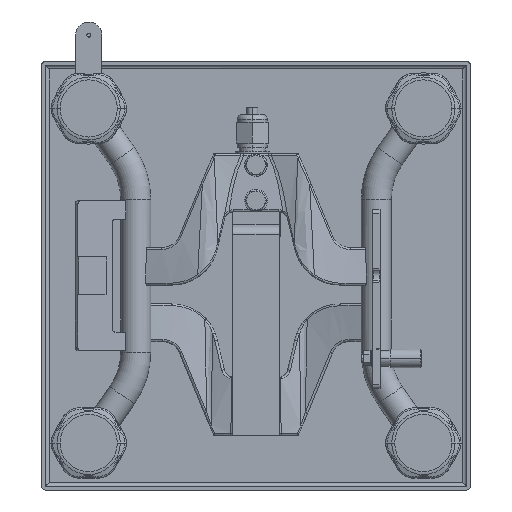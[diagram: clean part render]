
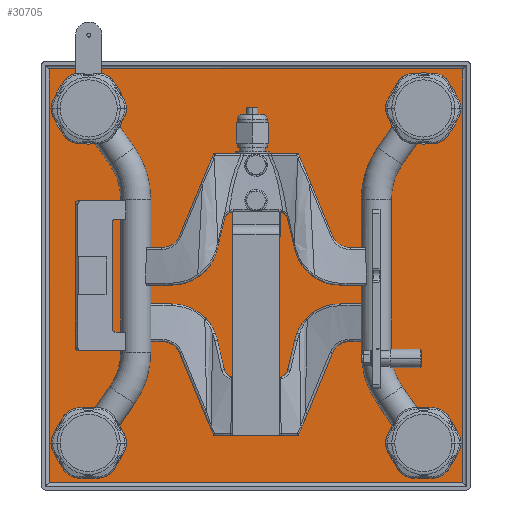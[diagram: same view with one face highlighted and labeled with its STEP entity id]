
A CAD part, front view. The second image highlights one B-rep face of the part: STEP entity #30705.
In plain terms, the highlighted planar face has unit normal (0, -1, 0).
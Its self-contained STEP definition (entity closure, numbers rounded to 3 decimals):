
#5156=CARTESIAN_POINT('',(-89.,68.5,-89.));
#5157=DIRECTION('',(0.,1.,0.));
#5158=DIRECTION('',(-1.,0.,0.));
#5159=AXIS2_PLACEMENT_3D('',#5156,#5157,#5158);
#5161=CARTESIAN_POINT('',(-89.,68.5,-89.));
#5162=DIRECTION('',(0.,1.,0.));
#5163=DIRECTION('',(1.,0.,0.));
#5164=AXIS2_PLACEMENT_3D('',#5161,#5162,#5163);
#5166=CARTESIAN_POINT('',(89.,68.5,-89.));
#5167=DIRECTION('',(0.,1.,0.));
#5168=DIRECTION('',(-1.,0.,0.));
#5169=AXIS2_PLACEMENT_3D('',#5166,#5167,#5168);
#5171=CARTESIAN_POINT('',(89.,68.5,-89.));
#5172=DIRECTION('',(0.,1.,0.));
#5173=DIRECTION('',(1.,0.,0.));
#5174=AXIS2_PLACEMENT_3D('',#5171,#5172,#5173);
#5176=CARTESIAN_POINT('',(-89.,68.5,89.));
#5177=DIRECTION('',(0.,1.,0.));
#5178=DIRECTION('',(-1.,0.,0.));
#5179=AXIS2_PLACEMENT_3D('',#5176,#5177,#5178);
#5181=CARTESIAN_POINT('',(-89.,68.5,89.));
#5182=DIRECTION('',(0.,1.,0.));
#5183=DIRECTION('',(1.,0.,0.));
#5184=AXIS2_PLACEMENT_3D('',#5181,#5182,#5183);
#5186=CARTESIAN_POINT('',(89.,68.5,89.));
#5187=DIRECTION('',(0.,1.,0.));
#5188=DIRECTION('',(-1.,0.,0.));
#5189=AXIS2_PLACEMENT_3D('',#5186,#5187,#5188);
#5191=CARTESIAN_POINT('',(89.,68.5,89.));
#5192=DIRECTION('',(0.,1.,0.));
#5193=DIRECTION('',(1.,0.,0.));
#5194=AXIS2_PLACEMENT_3D('',#5191,#5192,#5193);
#5209=DIRECTION('',(0.,0.,1.));
#5210=VECTOR('',#5209,220.);
#5211=CARTESIAN_POINT('',(-110.,68.5,-110.));
#5212=LINE('',#5211,#5210);
#5730=DIRECTION('',(-1.,0.,0.));
#5731=VECTOR('',#5730,220.);
#5732=CARTESIAN_POINT('',(110.,68.5,-110.));
#5733=LINE('',#5732,#5731);
#5751=DIRECTION('',(0.,0.,-1.));
#5752=VECTOR('',#5751,220.);
#5753=CARTESIAN_POINT('',(110.,68.5,110.));
#5754=LINE('',#5753,#5752);
#5784=DIRECTION('',(1.,0.,0.));
#5785=VECTOR('',#5784,220.);
#5786=CARTESIAN_POINT('',(-110.,68.5,110.));
#5787=LINE('',#5786,#5785);
#19499=CARTESIAN_POINT('',(-110.,68.5,-110.));
#19500=CARTESIAN_POINT('',(-110.,68.5,110.));
#19501=VERTEX_POINT('',#19499);
#19502=VERTEX_POINT('',#19500);
#19503=CARTESIAN_POINT('',(110.,68.5,-110.));
#19504=VERTEX_POINT('',#19503);
#19505=CARTESIAN_POINT('',(110.,68.5,110.));
#19506=VERTEX_POINT('',#19505);
#21904=CARTESIAN_POINT('',(-99.,68.5,-89.));
#21905=CARTESIAN_POINT('',(-79.,68.5,-89.));
#21906=VERTEX_POINT('',#21904);
#21907=VERTEX_POINT('',#21905);
#21912=CARTESIAN_POINT('',(79.,68.5,-89.));
#21913=CARTESIAN_POINT('',(99.,68.5,-89.));
#21914=VERTEX_POINT('',#21912);
#21915=VERTEX_POINT('',#21913);
#21924=CARTESIAN_POINT('',(-99.,68.5,89.));
#21925=CARTESIAN_POINT('',(-79.,68.5,89.));
#21926=VERTEX_POINT('',#21924);
#21927=VERTEX_POINT('',#21925);
#21936=CARTESIAN_POINT('',(79.,68.5,89.));
#21937=CARTESIAN_POINT('',(99.,68.5,89.));
#21938=VERTEX_POINT('',#21936);
#21939=VERTEX_POINT('',#21937);
#30667=CARTESIAN_POINT('',(0.,68.5,0.));
#30668=DIRECTION('',(0.,1.,0.));
#30669=DIRECTION('',(1.,0.,0.));
#30670=AXIS2_PLACEMENT_3D('',#30667,#30668,#30669);
#30671=PLANE('',#30670);
#30673=ORIENTED_EDGE('',*,*,#30672,.T.);
#30675=ORIENTED_EDGE('',*,*,#30674,.T.);
#30677=ORIENTED_EDGE('',*,*,#30676,.T.);
#30679=ORIENTED_EDGE('',*,*,#30678,.T.);
#30680=EDGE_LOOP('',(#30673,#30675,#30677,#30679));
#30681=FACE_OUTER_BOUND('',#30680,.F.);
#30683=ORIENTED_EDGE('',*,*,#30682,.F.);
#30685=ORIENTED_EDGE('',*,*,#30684,.F.);
#30686=EDGE_LOOP('',(#30683,#30685));
#30687=FACE_BOUND('',#30686,.F.);
#30689=ORIENTED_EDGE('',*,*,#30688,.F.);
#30691=ORIENTED_EDGE('',*,*,#30690,.F.);
#30692=EDGE_LOOP('',(#30689,#30691));
#30693=FACE_BOUND('',#30692,.F.);
#30695=ORIENTED_EDGE('',*,*,#30694,.F.);
#30697=ORIENTED_EDGE('',*,*,#30696,.F.);
#30698=EDGE_LOOP('',(#30695,#30697));
#30699=FACE_BOUND('',#30698,.F.);
#30700=ORIENTED_EDGE('',*,*,#30657,.F.);
#30702=ORIENTED_EDGE('',*,*,#30701,.F.);
#30703=EDGE_LOOP('',(#30700,#30702));
#30704=FACE_BOUND('',#30703,.F.);
#30705=ADVANCED_FACE('',(#30681,#30687,#30693,#30699,#30704),#30671,.F.);
#5160=CIRCLE('',#5159,10.);
#5165=CIRCLE('',#5164,10.);
#5170=CIRCLE('',#5169,10.);
#5175=CIRCLE('',#5174,10.);
#5180=CIRCLE('',#5179,10.);
#5185=CIRCLE('',#5184,10.);
#5190=CIRCLE('',#5189,10.);
#5195=CIRCLE('',#5194,10.);
#30657=EDGE_CURVE('',#21938,#21939,#5190,.T.);
#30672=EDGE_CURVE('',#19501,#19502,#5212,.T.);
#30674=EDGE_CURVE('',#19502,#19506,#5787,.T.);
#30676=EDGE_CURVE('',#19506,#19504,#5754,.T.);
#30678=EDGE_CURVE('',#19504,#19501,#5733,.T.);
#30682=EDGE_CURVE('',#21906,#21907,#5160,.T.);
#30684=EDGE_CURVE('',#21907,#21906,#5165,.T.);
#30688=EDGE_CURVE('',#21914,#21915,#5170,.T.);
#30690=EDGE_CURVE('',#21915,#21914,#5175,.T.);
#30694=EDGE_CURVE('',#21926,#21927,#5180,.T.);
#30696=EDGE_CURVE('',#21927,#21926,#5185,.T.);
#30701=EDGE_CURVE('',#21939,#21938,#5195,.T.);
